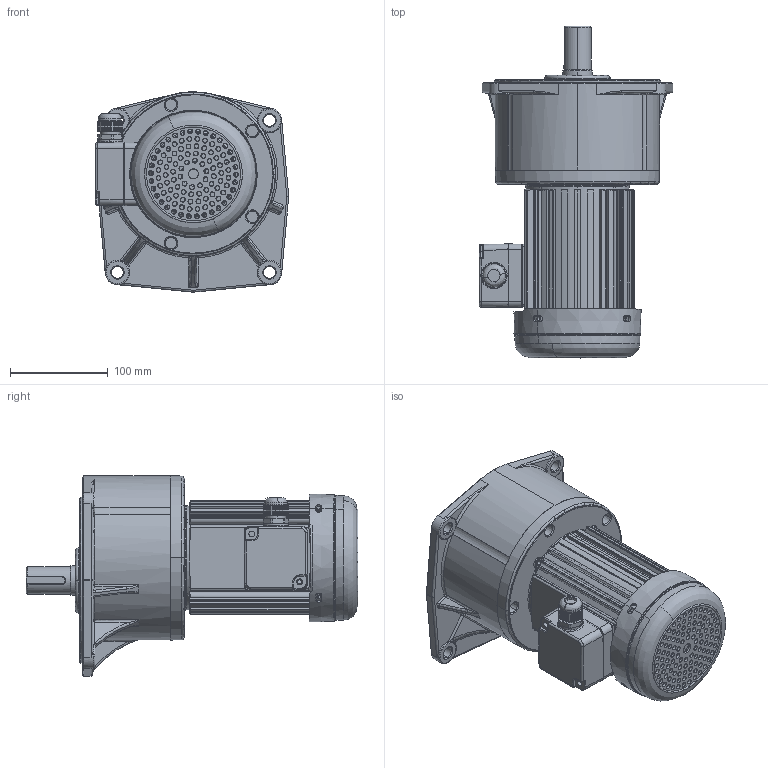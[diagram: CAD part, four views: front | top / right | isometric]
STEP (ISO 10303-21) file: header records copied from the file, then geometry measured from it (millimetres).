
FILE_DESCRIPTION (( 'STEP AP203' ), '1' );
FILE_NAME ('200W配3#立式.STEP', '2019-06-14T06:46:08', ( '微软中国' ), ( '微软用户' ), 'SwSTEP 2.0', 'SolidWorks 2012', '' );
FILE_SCHEMA (( 'CONFIG_CONTROL_DESIGN' ));
Length unit declared in the file: millimetre
Products named in the file (10): 200W饜3#蕾宒; 3#蕾宒熬厒ん; 3xg200w; 200W 儂褲2; 坶踡ん 蚾饜; 苤諉盄碟 裔; 苤諉盄碟釱; 釱菜; 100W瑞欶; 100W綴傷裔 2_25
Assembly tree (9 placements, depth 2):
  200W饜3#蕾宒
    100W綴傷裔 2_25
    100W瑞欶
    釱菜
    苤諉盄碟釱
    苤諉盄碟 裔
    坶踡ん 蚾饜
    200W 儂褲2
    3xg200w
    3#蕾宒熬厒ん
Bounding box: 197.94 x 339.57 x 204.98 mm (x, y, z)
Volume: 2765839.4 mm3; surface area: 506065 mm2
Topology: 6 solids, 14 shells, 2546 faces, 6682 edges, 4213 vertices
Faces by surface type: bspline 823, cylinder 738, plane 610, torus 188, cone 187
Entity records: 126232 total; most frequent: CARTESIAN_POINT 69100, ORIENTED_EDGE 13280, DIRECTION 9354, EDGE_CURVE 6670, VERTEX_POINT 4219, AXIS2_PLACEMENT_3D 3597, EDGE_LOOP 2920, ADVANCED_FACE 2546
